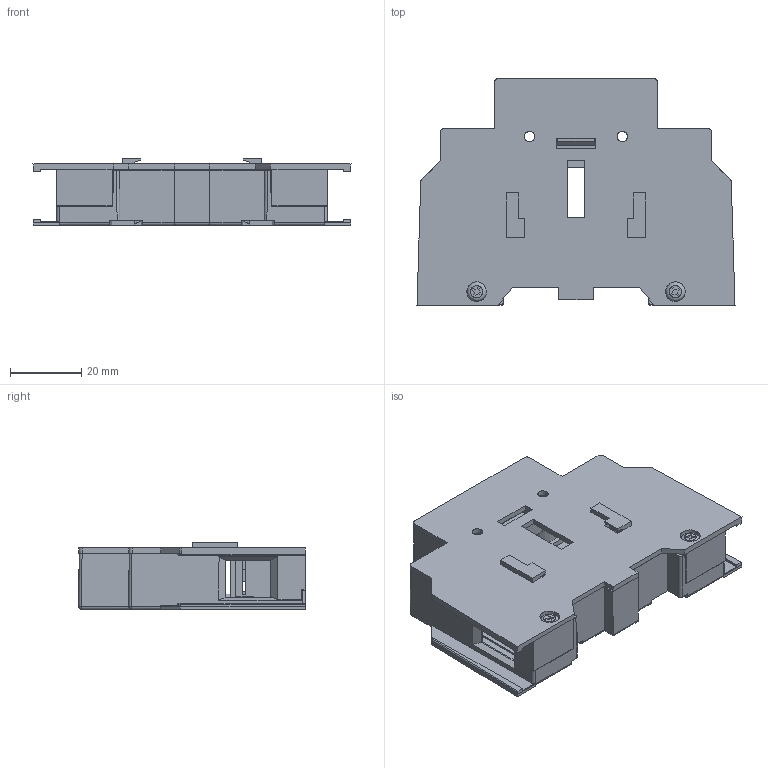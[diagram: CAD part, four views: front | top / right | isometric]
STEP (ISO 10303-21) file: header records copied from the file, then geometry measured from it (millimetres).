
FILE_DESCRIPTION (( 'STEP AP203' ), '1' );
FILE_NAME ('Ïîëþñ ÷åòâåðòûé OptiSwitch DI-80-125.STEP', '2023-02-21T21:35:41', ( 'Ïîëüçîâàòåëü' ), ( '' ), 'SwSTEP 2.0', 'SolidWorks 2018', '' );
FILE_SCHEMA (( 'CONFIG_CONTROL_DESIGN' ));
Length unit declared in the file: millimetre
Products named in the file (1): Ïîëþñ ÷åòâåðòûé OptiSwitch DI-80-125
Bounding box: 89.12 x 63.5 x 18.76 mm (x, y, z)
Surface area: 35483.7 mm2 (no closed solid volume)
Topology: 0 solids, 5 shells, 819 faces, 2276 edges, 1484 vertices
Faces by surface type: plane 674, cylinder 109, cone 16, sphere 10, bspline 8, torus 2
Full cylindrical faces by diameter (mm): 0.48 x2, 0.96 x1, 0.962 x1, 2.3 x12, 3 x2, 3.227 x2, 5.4 x2, 5.5 x2, 6.5 x2, 7 x2
Entity records: 41040 total; most frequent: CARTESIAN_POINT 24930, ORIENTED_EDGE 4358, EDGE_CURVE 2193, B_SPLINE_CURVE_WITH_KNOTS 2193, DIRECTION 1602, VERTEX_POINT 1444, EDGE_LOOP 909, FACE_OUTER_BOUND 828
